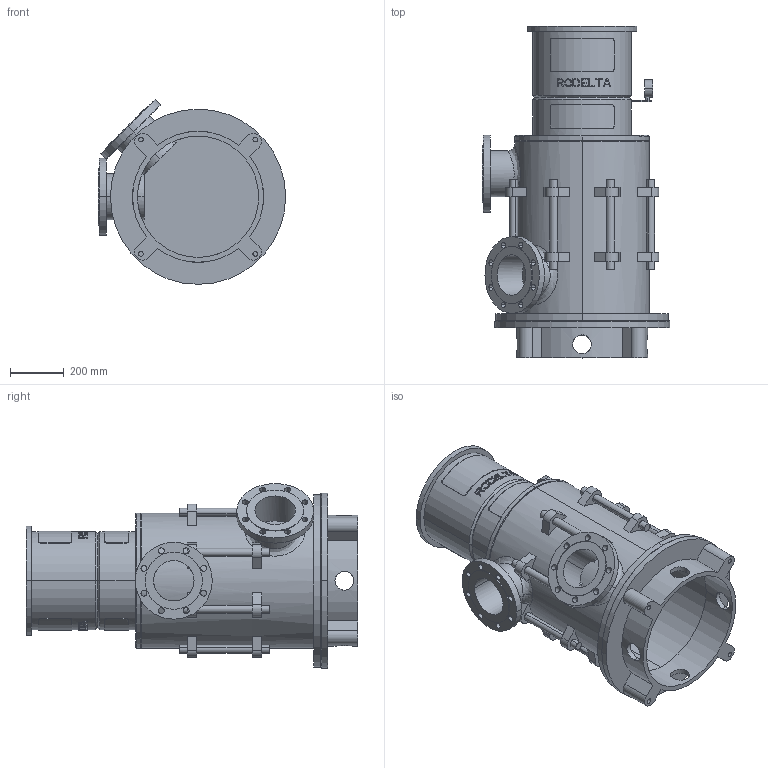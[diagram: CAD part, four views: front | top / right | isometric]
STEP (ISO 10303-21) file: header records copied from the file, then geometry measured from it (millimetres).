
FILE_DESCRIPTION((''),'2;1');
FILE_NAME('LS6_2TR_0GR_TOT_30KW','2023-08-15T',('Lyritlocal'),(''),'PRO/ENGINEER BY PARAMETRIC TECHNOLOGY CORPORATION, 2016360','PRO/ENGINEER BY PARAMETRIC TECHNOLOGY CORPORATION, 2016360','');
FILE_SCHEMA(('CONFIG_CONTROL_DESIGN'));
Length unit declared in the file: millimetre
Products named in the file (1): LS6_2TR_0GR_TOT_30KW
Bounding box: 695 x 1231 x 685.27 mm (x, y, z)
Volume: 40270038.7 mm3; surface area: 5291315.9 mm2
Topology: 3 solids, 7 shells, 684 faces, 1767 edges, 1174 vertices
Faces by surface type: plane 422, cylinder 242, cone 12, bspline 8
Entity records: 22736 total; most frequent: CARTESIAN_POINT 6124, ORIENTED_EDGE 3518, DIRECTION 3273, EDGE_CURVE 1767, AXIS2_PLACEMENT_3D 1237, VERTEX_POINT 1174, EDGE_LOOP 829, VECTOR 799
